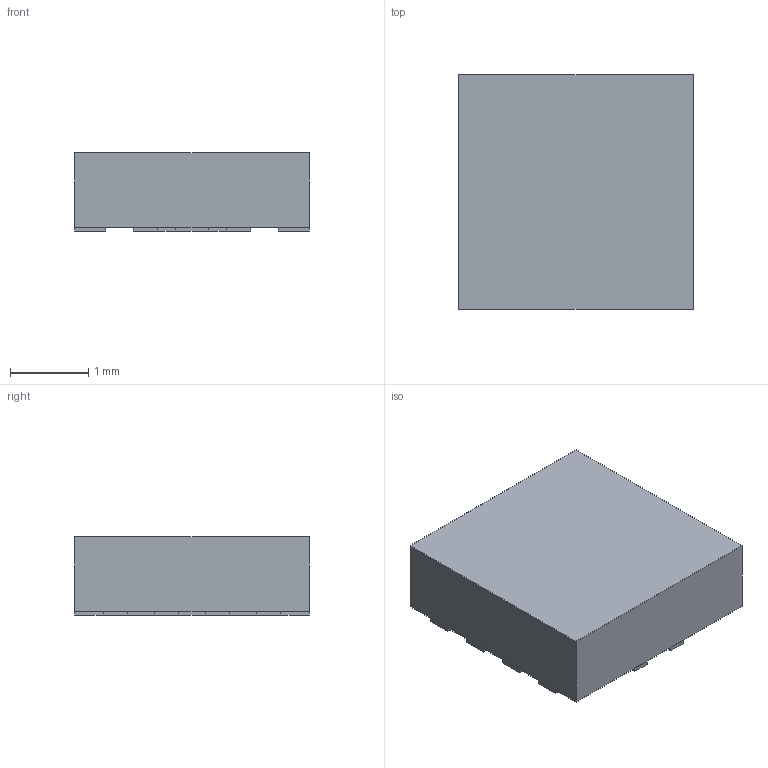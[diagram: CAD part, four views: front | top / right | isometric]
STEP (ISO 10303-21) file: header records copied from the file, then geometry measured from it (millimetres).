
FILE_DESCRIPTION(('FreeCAD Model'),'2;1');
FILE_NAME('Open CASCADE Shape Model','2026-11-12T17:17:04',('FreeCAD'),( 'FreeCAD'),'Open CASCADE STEP processor 7.8','FreeCAD','Unknown');
FILE_SCHEMA(('AUTOMOTIVE_DESIGN { 1 0 10303 214 1 1 1 1 }'));
Length unit declared in the file: millimetre
Products named in the file (1): Open CASCADE STEP translator 7.8 2
Bounding box: 3 x 3 x 1 mm (x, y, z)
Volume: 8.8 mm3; surface area: 38.9 mm2
Topology: 10 solids, 10 shells, 76 faces, 168 edges, 112 vertices
Faces by surface type: plane 76
Entity records: 2044 total; most frequent: CARTESIAN_POINT 357, ORIENTED_EDGE 336, DIRECTION 322, EDGE_CURVE 168, LINE 168, VECTOR 168, VERTEX_POINT 112, AXIS2_PLACEMENT_3D 77
